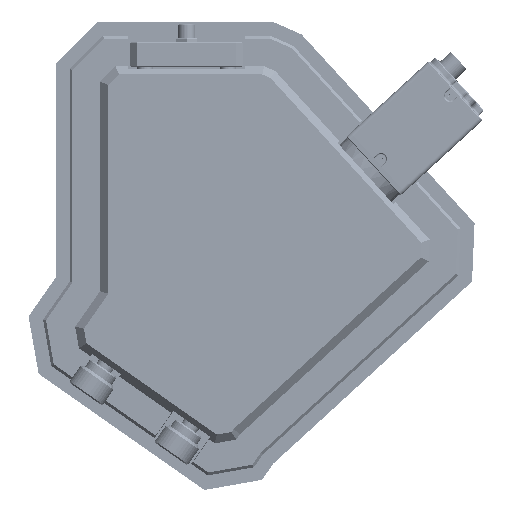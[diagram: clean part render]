
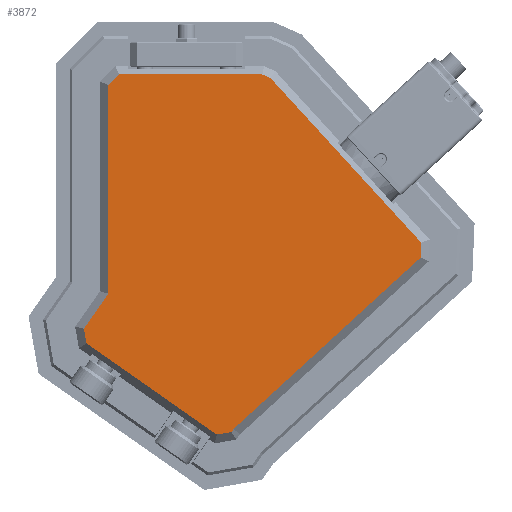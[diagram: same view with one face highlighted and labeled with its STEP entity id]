
A CAD part, left-side view. The second image highlights one B-rep face of the part: STEP entity #3872.
In plain terms, the highlighted planar face has unit normal (-1, 0, 0).
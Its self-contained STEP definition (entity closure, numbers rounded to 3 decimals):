
#3763 = VECTOR ( 'NONE', #145019, 1000. ) ;
#3872 = ADVANCED_FACE ( 'NONE', ( #165609 ), #166598, .F. ) ;
#5078 = VERTEX_POINT ( 'NONE', #125091 ) ;
#9795 = CARTESIAN_POINT ( 'NONE',  ( -49.117, -69.748, 151.95 ) ) ;
#10309 = CARTESIAN_POINT ( 'NONE',  ( -49.117, -11.324, 74.089 ) ) ;
#13138 = VERTEX_POINT ( 'NONE', #147251 ) ;
#13574 = EDGE_CURVE ( 'NONE', #158883, #38905, #17509, .T. ) ;
#15123 = CARTESIAN_POINT ( 'NONE',  ( -49.117, -66.73, 153.093 ) ) ;
#16517 = DIRECTION ( 'NONE',  ( 0., -0.574, 0.819 ) ) ;
#17235 = LINE ( 'NONE', #60971, #129719 ) ;
#17509 = LINE ( 'NONE', #78145, #176552 ) ;
#23129 = VECTOR ( 'NONE', #182644, 1000. ) ;
#23154 = ORIENTED_EDGE ( 'NONE', *, *, #151906, .T. ) ;
#28151 = CARTESIAN_POINT ( 'NONE',  ( -49.117, -55.935, 23.365 ) ) ;
#28823 = CARTESIAN_POINT ( 'NONE',  ( -49.117, -2.464, 60.805 ) ) ;
#29045 = EDGE_CURVE ( 'NONE', #105260, #158883, #107261, .T. ) ;
#32395 = DIRECTION ( 'NONE',  ( 1., 0., 0. ) ) ;
#34278 = CARTESIAN_POINT ( 'NONE',  ( -49.117, -125.08, 87.125 ) ) ;
#35234 = DIRECTION ( 'NONE',  ( 0., -0.737, 0.676 ) ) ;
#37001 = ORIENTED_EDGE ( 'NONE', *, *, #29045, .T. ) ;
#38635 = CARTESIAN_POINT ( 'NONE',  ( -49.117, -56.717, 24.482 ) ) ;
#38900 = EDGE_CURVE ( 'NONE', #43602, #98630, #177736, .T. ) ;
#38905 = VERTEX_POINT ( 'NONE', #38635 ) ;
#42789 = ORIENTED_EDGE ( 'NONE', *, *, #125722, .T. ) ;
#43602 = VERTEX_POINT ( 'NONE', #109804 ) ;
#45683 = ORIENTED_EDGE ( 'NONE', *, *, #82290, .T. ) ;
#46643 = VECTOR ( 'NONE', #49497, 1000. ) ;
#47039 = DIRECTION ( 'NONE',  ( 0., -0.044, 0.999 ) ) ;
#48382 = CARTESIAN_POINT ( 'NONE',  ( -49.117, -11.324, 73.459 ) ) ;
#48525 = LINE ( 'NONE', #51432, #46643 ) ;
#48712 = ORIENTED_EDGE ( 'NONE', *, *, #102237, .T. ) ;
#49497 = DIRECTION ( 'NONE',  ( 0., 0.707, -0.707 ) ) ;
#51432 = CARTESIAN_POINT ( 'NONE',  ( -49.117, -10.738, 148.509 ) ) ;
#51903 = EDGE_LOOP ( 'NONE', ( #169986, #42789, #23154, #37001, #124090, #128682, #48712, #84925, #117158, #162840, #52770, #45683 ) ) ;
#52770 = ORIENTED_EDGE ( 'NONE', *, *, #74396, .T. ) ;
#60971 = CARTESIAN_POINT ( 'NONE',  ( -49.117, -124.742, 92.802 ) ) ;
#67083 = EDGE_CURVE ( 'NONE', #153452, #146735, #148885, .T. ) ;
#74396 = EDGE_CURVE ( 'NONE', #98630, #130018, #48525, .T. ) ;
#78145 = CARTESIAN_POINT ( 'NONE',  ( -49.117, -56.592, 24.303 ) ) ;
#82290 = EDGE_CURVE ( 'NONE', #130018, #153452, #164324, .T. ) ;
#83637 = CARTESIAN_POINT ( 'NONE',  ( -49.117, -3.548, 54.658 ) ) ;
#84618 = DIRECTION ( 'NONE',  ( 0., -0.174, -0.985 ) ) ;
#84925 = ORIENTED_EDGE ( 'NONE', *, *, #131299, .T. ) ;
#85400 = LINE ( 'NONE', #9795, #149933 ) ;
#86896 = DIRECTION ( 'NONE',  ( 0., 0., -1. ) ) ;
#92112 = CARTESIAN_POINT ( 'NONE',  ( -49.117, -12.141, 53.018 ) ) ;
#93398 = DIRECTION ( 'NONE',  ( 0., -0.819, -0.574 ) ) ;
#98630 = VERTEX_POINT ( 'NONE', #133804 ) ;
#100488 = EDGE_CURVE ( 'NONE', #155880, #43602, #182054, .T. ) ;
#102237 = EDGE_CURVE ( 'NONE', #5078, #13138, #17235, .T. ) ;
#102268 = CARTESIAN_POINT ( 'NONE',  ( -49.117, -14.324, 152.923 ) ) ;
#104605 = DIRECTION ( 'NONE',  ( 0., 0.915, 0.403 ) ) ;
#105260 = VERTEX_POINT ( 'NONE', #130704 ) ;
#107261 = LINE ( 'NONE', #153890, #126727 ) ;
#108054 = CARTESIAN_POINT ( 'NONE',  ( -49.117, -70.032, 151.64 ) ) ;
#109804 = CARTESIAN_POINT ( 'NONE',  ( -49.117, -67.115, 152.923 ) ) ;
#110373 = VECTOR ( 'NONE', #104605, 1000. ) ;
#115390 = LINE ( 'NONE', #83637, #120483 ) ;
#117158 = ORIENTED_EDGE ( 'NONE', *, *, #100488, .T. ) ;
#118096 = CARTESIAN_POINT ( 'NONE',  ( -49.117, -11.324, 149.095 ) ) ;
#120483 = VECTOR ( 'NONE', #84618, 1000. ) ;
#124090 = ORIENTED_EDGE ( 'NONE', *, *, #13574, .T. ) ;
#125091 = CARTESIAN_POINT ( 'NONE',  ( -49.117, -124.469, 86.565 ) ) ;
#125325 = CARTESIAN_POINT ( 'NONE',  ( -49.117, -3.404, 55.473 ) ) ;
#125722 = EDGE_CURVE ( 'NONE', #146735, #162627, #115390, .T. ) ;
#126727 = VECTOR ( 'NONE', #139932, 1000. ) ;
#128682 = ORIENTED_EDGE ( 'NONE', *, *, #168637, .T. ) ;
#129719 = VECTOR ( 'NONE', #47039, 1000. ) ;
#130018 = VERTEX_POINT ( 'NONE', #118096 ) ;
#130704 = CARTESIAN_POINT ( 'NONE',  ( -49.117, -50.603, 22.424 ) ) ;
#131299 = EDGE_CURVE ( 'NONE', #13138, #155880, #85400, .T. ) ;
#132021 = DIRECTION ( 'NONE',  ( 0., 0.676, 0.737 ) ) ;
#133804 = CARTESIAN_POINT ( 'NONE',  ( -49.117, -15.152, 152.923 ) ) ;
#136794 = VECTOR ( 'NONE', #86896, 1000. ) ;
#139932 = DIRECTION ( 'NONE',  ( 0., -0.985, 0.174 ) ) ;
#145019 = DIRECTION ( 'NONE',  ( 0., 1., 0. ) ) ;
#146735 = VERTEX_POINT ( 'NONE', #28823 ) ;
#147251 = CARTESIAN_POINT ( 'NONE',  ( -49.117, -124.705, 91.975 ) ) ;
#148885 = LINE ( 'NONE', #152804, #23129 ) ;
#149933 = VECTOR ( 'NONE', #132021, 1000. ) ;
#151906 = EDGE_CURVE ( 'NONE', #162627, #105260, #155896, .T. ) ;
#152804 = CARTESIAN_POINT ( 'NONE',  ( -49.117, -1.989, 60.127 ) ) ;
#153452 = VERTEX_POINT ( 'NONE', #48382 ) ;
#153651 = DIRECTION ( 'NONE',  ( 0., -0.819, -0.574 ) ) ;
#153890 = CARTESIAN_POINT ( 'NONE',  ( -49.117, -56.75, 23.508 ) ) ;
#155880 = VERTEX_POINT ( 'NONE', #108054 ) ;
#155896 = LINE ( 'NONE', #168854, #193006 ) ;
#158883 = VERTEX_POINT ( 'NONE', #28151 ) ;
#162627 = VERTEX_POINT ( 'NONE', #125325 ) ;
#162840 = ORIENTED_EDGE ( 'NONE', *, *, #38900, .T. ) ;
#164324 = LINE ( 'NONE', #10309, #136794 ) ;
#165609 = FACE_OUTER_BOUND ( 'NONE', #51903, .T. ) ;
#166598 = PLANE ( 'NONE',  #169738 ) ;
#168637 = EDGE_CURVE ( 'NONE', #38905, #5078, #171398, .T. ) ;
#168854 = CARTESIAN_POINT ( 'NONE',  ( -49.117, -51.281, 21.949 ) ) ;
#169738 = AXIS2_PLACEMENT_3D ( 'NONE', #92112, #32395, #153651 ) ;
#169986 = ORIENTED_EDGE ( 'NONE', *, *, #67083, .T. ) ;
#171398 = LINE ( 'NONE', #34278, #188286 ) ;
#176552 = VECTOR ( 'NONE', #16517, 1000. ) ;
#177736 = LINE ( 'NONE', #102268, #3763 ) ;
#182054 = LINE ( 'NONE', #15123, #110373 ) ;
#182644 = DIRECTION ( 'NONE',  ( 0., 0.574, -0.819 ) ) ;
#188286 = VECTOR ( 'NONE', #35234, 1000. ) ;
#193006 = VECTOR ( 'NONE', #93398, 1000. ) ;
